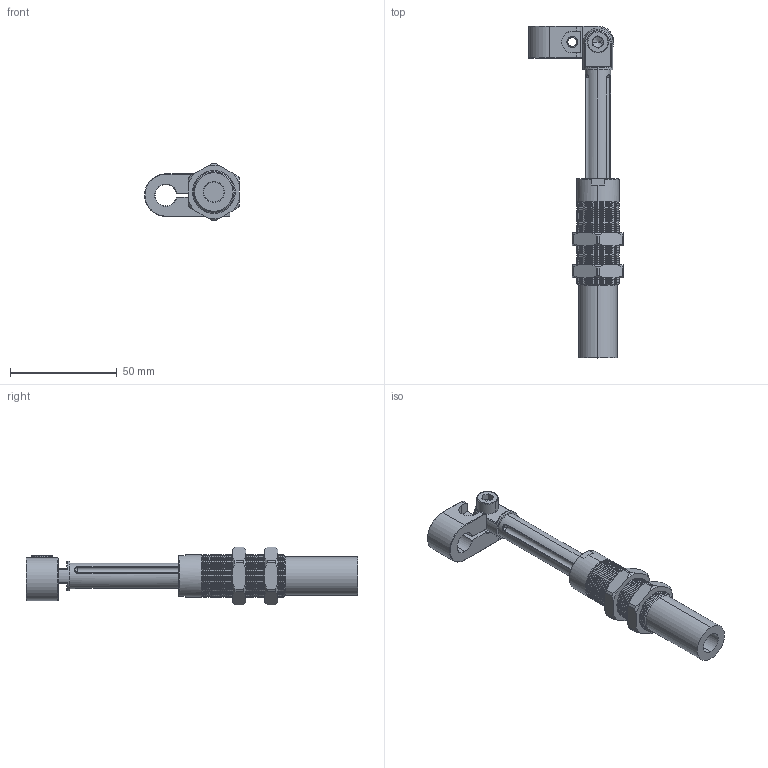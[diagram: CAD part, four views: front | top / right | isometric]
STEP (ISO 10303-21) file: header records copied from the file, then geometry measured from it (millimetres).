
FILE_DESCRIPTION (( 'STEP AP203' ), '1' );
FILE_NAME ('GSRT2051-10.STEP', '2024-08-06T08:46:09', ( '微软用户' ), ( '微软中国' ), 'SwSTEP 2.0', 'SolidWorks 2018', '' );
FILE_SCHEMA (( 'CONFIG_CONTROL_DESIGN' ));
Length unit declared in the file: millimetre
Products named in the file (1): GSRT2051-10
Bounding box: 44.5 x 155.5 x 27 mm (x, y, z)
Volume: 35447.7 mm3; surface area: 19813.3 mm2
Topology: 2 solids, 6 shells, 491 faces, 1246 edges, 766 vertices
Faces by surface type: cone 203, cylinder 173, plane 80, bspline 35
Entity records: 21585 total; most frequent: CARTESIAN_POINT 9849, DIRECTION 2506, ORIENTED_EDGE 2472, EDGE_CURVE 1236, AXIS2_PLACEMENT_3D 1011, VERTEX_POINT 766, CIRCLE 554, EDGE_LOOP 520
